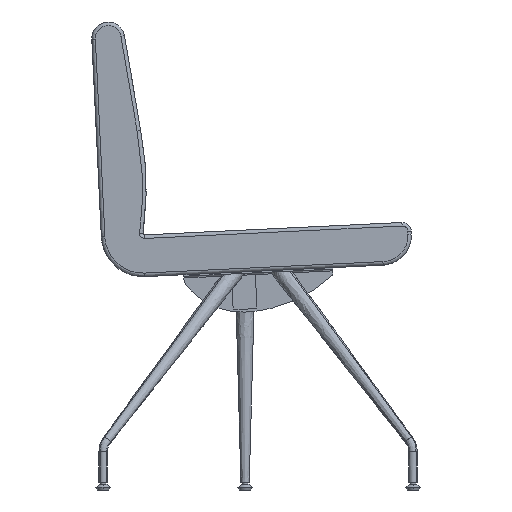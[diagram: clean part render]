
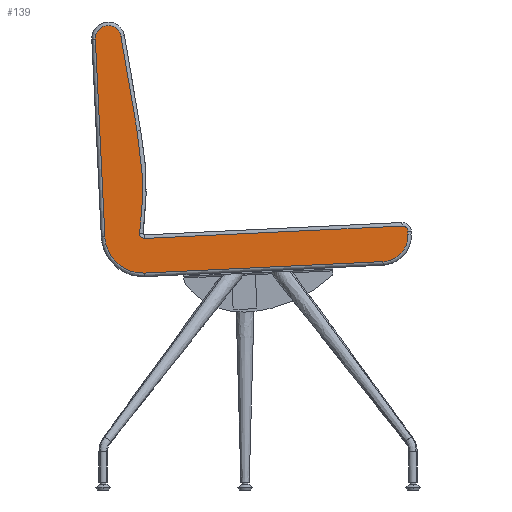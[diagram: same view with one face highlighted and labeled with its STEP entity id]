
A CAD part, left-side view. The second image highlights one B-rep face of the part: STEP entity #139.
In plain terms, the highlighted planar face has unit normal (-1, 0, 0).
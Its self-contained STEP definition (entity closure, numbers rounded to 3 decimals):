
#139=ADVANCED_FACE('',(#460),#4190,.T.);
#460=FACE_OUTER_BOUND('',#783,.T.);
#783=EDGE_LOOP('',(#1318,#1319,#1320,#1321,#1322,#1323,#1324,#1325,#1326,
#1327,#1328));
#1318=ORIENTED_EDGE('',*,*,#2605,.F.);
#1319=ORIENTED_EDGE('',*,*,#2599,.F.);
#1320=ORIENTED_EDGE('',*,*,#2572,.F.);
#1321=ORIENTED_EDGE('',*,*,#2591,.F.);
#1322=ORIENTED_EDGE('',*,*,#2588,.F.);
#1323=ORIENTED_EDGE('',*,*,#2582,.F.);
#1324=ORIENTED_EDGE('',*,*,#2578,.F.);
#1325=ORIENTED_EDGE('',*,*,#2571,.F.);
#1326=ORIENTED_EDGE('',*,*,#2617,.F.);
#1327=ORIENTED_EDGE('',*,*,#2573,.F.);
#1328=ORIENTED_EDGE('',*,*,#2609,.F.);
#2571=EDGE_CURVE('',#3860,#3861,#4510,.T.);
#2572=EDGE_CURVE('',#3855,#3859,#4511,.T.);
#2573=EDGE_CURVE('',#3853,#3862,#4512,.T.);
#2578=EDGE_CURVE('',#3861,#3857,#3277,.T.);
#2582=EDGE_CURVE('',#3857,#3858,#3281,.T.);
#2588=EDGE_CURVE('',#3858,#3854,#3287,.T.);
#2591=EDGE_CURVE('',#3854,#3855,#3290,.T.);
#2599=EDGE_CURVE('',#3859,#3856,#3298,.T.);
#2605=EDGE_CURVE('',#3856,#3852,#3304,.T.);
#2609=EDGE_CURVE('',#3852,#3853,#3308,.T.);
#2617=EDGE_CURVE('',#3862,#3860,#3316,.T.);
#3277=(
BOUNDED_CURVE()
B_SPLINE_CURVE(3,(#6631,#6632,#6633,#6634,#6635,#6636,#6637,#6638,#6639,
#6640,#6641),.UNSPECIFIED.,.F.,.F.)
B_SPLINE_CURVE_WITH_KNOTS((4,1,1,1,1,1,1,1,4),(0.,8.154,
16.307,24.461,32.615,40.769,48.922,
57.076,65.23),.UNSPECIFIED.)
CURVE()
GEOMETRIC_REPRESENTATION_ITEM()
RATIONAL_B_SPLINE_CURVE((1.,1.,1.,1.,1.,1.,1.,1.,
1.,1.,1.))
REPRESENTATION_ITEM('')
);
#3281=(
BOUNDED_CURVE()
B_SPLINE_CURVE(1,(#6658,#6659),.UNSPECIFIED.,.F.,.F.)
B_SPLINE_CURVE_WITH_KNOTS((2,2),(0.,161.419),
 .UNSPECIFIED.)
CURVE()
GEOMETRIC_REPRESENTATION_ITEM()
RATIONAL_B_SPLINE_CURVE((1.,1.))
REPRESENTATION_ITEM('')
);
#3287=(
BOUNDED_CURVE()
B_SPLINE_CURVE(3,(#6673,#6674,#6675,#6676,#6677,#6678,#6679,#6680,#6681),
 .UNSPECIFIED.,.F.,.F.)
B_SPLINE_CURVE_WITH_KNOTS((4,1,1,1,1,1,4),(0.,16.374,
32.749,50.88,69.011,120.524,172.037),
 .UNSPECIFIED.)
CURVE()
GEOMETRIC_REPRESENTATION_ITEM()
RATIONAL_B_SPLINE_CURVE((1.,1.,1.,1.,1.,1.,
1.,1.,1.))
REPRESENTATION_ITEM('')
);
#3290=(
BOUNDED_CURVE()
B_SPLINE_CURVE(3,(#6694,#6695,#6696,#6697,#6698),.UNSPECIFIED.,.F.,.F.)
B_SPLINE_CURVE_WITH_KNOTS((4,1,4),(0.,6.935,
13.869),.UNSPECIFIED.)
CURVE()
GEOMETRIC_REPRESENTATION_ITEM()
RATIONAL_B_SPLINE_CURVE((1.,1.,1.,1.,1.))
REPRESENTATION_ITEM('')
);
#3298=(
BOUNDED_CURVE()
B_SPLINE_CURVE(3,(#6720,#6721,#6722,#6723,#6724),.UNSPECIFIED.,.F.,.F.)
B_SPLINE_CURVE_WITH_KNOTS((4,1,4),(0.,7.068,
14.137),.UNSPECIFIED.)
CURVE()
GEOMETRIC_REPRESENTATION_ITEM()
RATIONAL_B_SPLINE_CURVE((1.,1.,1.,1.,1.))
REPRESENTATION_ITEM('')
);
#3304=(
BOUNDED_CURVE()
B_SPLINE_CURVE(1,(#6741,#6742),.UNSPECIFIED.,.F.,.F.)
B_SPLINE_CURVE_WITH_KNOTS((2,2),(0.,5.),
 .UNSPECIFIED.)
CURVE()
GEOMETRIC_REPRESENTATION_ITEM()
RATIONAL_B_SPLINE_CURVE((1.,1.))
REPRESENTATION_ITEM('')
);
#3308=(
BOUNDED_CURVE()
B_SPLINE_CURVE(3,(#6750,#6751,#6752,#6753,#6754,#6755,#6756),
 .UNSPECIFIED.,.F.,.F.)
B_SPLINE_CURVE_WITH_KNOTS((4,1,1,1,4),(0.,16.586,
34.557,52.527,69.113),.UNSPECIFIED.)
CURVE()
GEOMETRIC_REPRESENTATION_ITEM()
RATIONAL_B_SPLINE_CURVE((1.,1.,1.,1.,1.,1.,1.))
REPRESENTATION_ITEM('')
);
#3316=(
BOUNDED_CURVE()
B_SPLINE_CURVE(3,(#6780,#6781,#6782,#6783,#6784,#6785,#6786),
 .UNSPECIFIED.,.F.,.F.)
B_SPLINE_CURVE_WITH_KNOTS((4,1,1,1,4),(0.,24.125,50.264,
76.404,100.528),.UNSPECIFIED.)
CURVE()
GEOMETRIC_REPRESENTATION_ITEM()
RATIONAL_B_SPLINE_CURVE((1.,1.,1.,1.,1.,1.,1.))
REPRESENTATION_ITEM('')
);
#3852=VERTEX_POINT('',#6512);
#3853=VERTEX_POINT('',#6513);
#3854=VERTEX_POINT('',#6514);
#3855=VERTEX_POINT('',#6515);
#3856=VERTEX_POINT('',#6516);
#3857=VERTEX_POINT('',#6517);
#3858=VERTEX_POINT('',#6518);
#3859=VERTEX_POINT('',#6519);
#3860=VERTEX_POINT('',#6520);
#3861=VERTEX_POINT('',#6521);
#3862=VERTEX_POINT('',#6522);
#4190=PLANE('',#4698);
#4510=B_SPLINE_CURVE_WITH_KNOTS('',1,(#6616,#6617),.UNSPECIFIED.,.F.,.F.,
(2,2),(0.,332.138),.UNSPECIFIED.);
#4511=B_SPLINE_CURVE_WITH_KNOTS('',1,(#6618,#6619),.UNSPECIFIED.,.F.,.F.,
(2,2),(0.,432.642),.UNSPECIFIED.);
#4512=B_SPLINE_CURVE_WITH_KNOTS('',1,(#6620,#6621),.UNSPECIFIED.,.F.,.F.,
(2,2),(0.,400.),.UNSPECIFIED.);
#4698=AXIS2_PLACEMENT_3D('',#6164,#4753,$);
#4753=DIRECTION('',(-1.,0.,0.));
#6164=CARTESIAN_POINT('',(-1275.,347.841,834.398));
#6512=CARTESIAN_POINT('',(-1275.,-251.306,429.248));
#6513=CARTESIAN_POINT('',(-1275.,-209.47,383.186));
#6514=CARTESIAN_POINT('',(-1275.,198.83,430.931));
#6515=CARTESIAN_POINT('',(-1275.,190.499,422.024));
#6516=CARTESIAN_POINT('',(-1275.,-251.066,434.242));
#6517=CARTESIAN_POINT('',(-1275.,230.153,761.269));
#6518=CARTESIAN_POINT('',(-1275.,202.898,602.168));
#6519=CARTESIAN_POINT('',(-1275.,-241.644,442.8));
#6520=CARTESIAN_POINT('',(-1275.,257.068,424.83));
#6521=CARTESIAN_POINT('',(-1275.,273.018,756.585));
#6522=CARTESIAN_POINT('',(-1275.,190.069,363.977));
#6616=CARTESIAN_POINT('',(-1275.,257.068,424.83));
#6617=CARTESIAN_POINT('',(-1275.,273.018,756.585));
#6618=CARTESIAN_POINT('',(-1275.,190.499,422.024));
#6619=CARTESIAN_POINT('',(-1275.,-241.644,442.8));
#6620=CARTESIAN_POINT('',(-1275.,-209.47,383.186));
#6621=CARTESIAN_POINT('',(-1275.,190.069,363.977));
#6631=CARTESIAN_POINT('',(-1275.,273.018,756.585));
#6632=CARTESIAN_POINT('',(-1275.,273.15,759.299));
#6633=CARTESIAN_POINT('',(-1275.,272.373,764.778));
#6634=CARTESIAN_POINT('',(-1275.,268.262,771.989));
#6635=CARTESIAN_POINT('',(-1275.,261.782,777.177));
#6636=CARTESIAN_POINT('',(-1275.,253.846,779.611));
#6637=CARTESIAN_POINT('',(-1275.,245.572,778.948));
#6638=CARTESIAN_POINT('',(-1275.,238.124,775.283));
#6639=CARTESIAN_POINT('',(-1275.,232.553,769.13));
#6640=CARTESIAN_POINT('',(-1275.,230.611,763.948));
#6641=CARTESIAN_POINT('',(-1275.,230.153,761.269));
#6658=CARTESIAN_POINT('',(-1275.,230.153,761.269));
#6659=CARTESIAN_POINT('',(-1275.,202.898,602.168));
#6673=CARTESIAN_POINT('',(-1275.,202.898,602.168));
#6674=CARTESIAN_POINT('',(-1275.,201.977,596.788));
#6675=CARTESIAN_POINT('',(-1275.,200.133,586.028));
#6676=CARTESIAN_POINT('',(-1275.,197.577,569.261));
#6677=CARTESIAN_POINT('',(-1275.,195.528,551.833));
#6678=CARTESIAN_POINT('',(-1275.,193.369,522.641));
#6679=CARTESIAN_POINT('',(-1275.,193.753,482.205));
#6680=CARTESIAN_POINT('',(-1275.,196.87,447.99));
#6681=CARTESIAN_POINT('',(-1275.,198.83,430.931));
#6694=CARTESIAN_POINT('',(-1275.,198.83,430.931));
#6695=CARTESIAN_POINT('',(-1275.,199.117,428.633));
#6696=CARTESIAN_POINT('',(-1275.,197.492,423.833));
#6697=CARTESIAN_POINT('',(-1275.,192.811,421.89));
#6698=CARTESIAN_POINT('',(-1275.,190.499,422.024));
#6720=CARTESIAN_POINT('',(-1275.,-241.644,442.8));
#6721=CARTESIAN_POINT('',(-1275.,-243.999,442.929));
#6722=CARTESIAN_POINT('',(-1275.,-248.774,441.184));
#6723=CARTESIAN_POINT('',(-1275.,-250.969,436.599));
#6724=CARTESIAN_POINT('',(-1275.,-251.066,434.242));
#6741=CARTESIAN_POINT('',(-1275.,-251.066,434.242));
#6742=CARTESIAN_POINT('',(-1275.,-251.306,429.248));
#6750=CARTESIAN_POINT('',(-1275.,-251.306,429.248));
#6751=CARTESIAN_POINT('',(-1275.,-251.573,423.726));
#6752=CARTESIAN_POINT('',(-1275.,-249.932,412.116));
#6753=CARTESIAN_POINT('',(-1275.,-240.848,396.716));
#6754=CARTESIAN_POINT('',(-1275.,-226.391,386.197));
#6755=CARTESIAN_POINT('',(-1275.,-214.992,383.449));
#6756=CARTESIAN_POINT('',(-1275.,-209.47,383.186));
#6780=CARTESIAN_POINT('',(-1275.,190.069,363.977));
#6781=CARTESIAN_POINT('',(-1275.,198.101,363.588));
#6782=CARTESIAN_POINT('',(-1275.,214.989,365.975));
#6783=CARTESIAN_POINT('',(-1275.,237.388,379.188));
#6784=CARTESIAN_POINT('',(-1275.,252.689,400.217));
#6785=CARTESIAN_POINT('',(-1275.,256.685,416.798));
#6786=CARTESIAN_POINT('',(-1275.,257.068,424.83));
